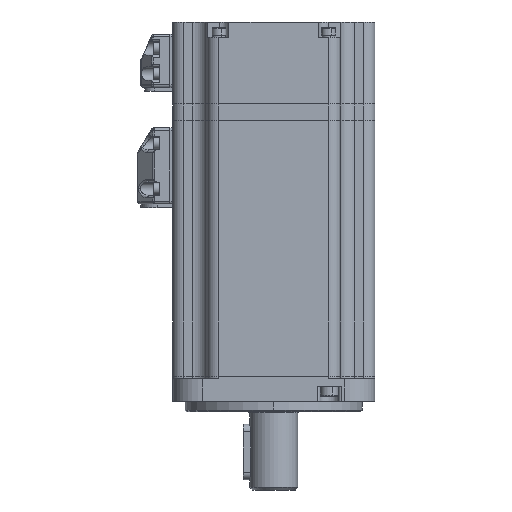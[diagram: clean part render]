
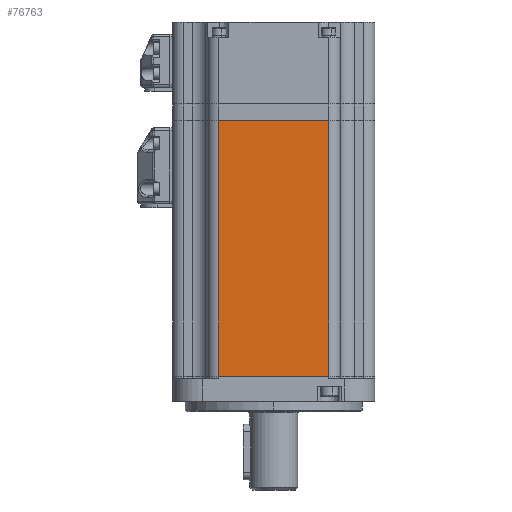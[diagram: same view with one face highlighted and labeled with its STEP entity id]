
A CAD part, left-side view. The second image highlights one B-rep face of the part: STEP entity #76763.
In plain terms, the highlighted planar face has unit normal (-1, 0, 0).
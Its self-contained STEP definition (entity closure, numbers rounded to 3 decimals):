
#2006 = EDGE_CURVE ( 'NONE', #24430, #85108, #10736, .T. ) ;
#3305 = PLANE ( 'NONE',  #10635 ) ;
#4658 = DIRECTION ( 'NONE',  ( 0., 0., -1. ) ) ;
#5469 = DIRECTION ( 'NONE',  ( 0., -1., 0. ) ) ;
#6698 = VECTOR ( 'NONE', #24033, 1000. ) ;
#8205 = EDGE_CURVE ( 'NONE', #14946, #36705, #84115, .T. ) ;
#8528 = LINE ( 'NONE', #67002, #14986 ) ;
#10410 = ORIENTED_EDGE ( 'NONE', *, *, #2006, .T. ) ;
#10635 = AXIS2_PLACEMENT_3D ( 'NONE', #72043, #58558, #86161 ) ;
#10736 = LINE ( 'NONE', #74001, #12893 ) ;
#12893 = VECTOR ( 'NONE', #4658, 1000. ) ;
#14946 = VERTEX_POINT ( 'NONE', #57101 ) ;
#14986 = VECTOR ( 'NONE', #5469, 1000. ) ;
#18120 = EDGE_LOOP ( 'NONE', ( #64216, #10410, #65440, #78825 ) ) ;
#21447 = EDGE_CURVE ( 'NONE', #24430, #36705, #40649, .T. ) ;
#24033 = DIRECTION ( 'NONE',  ( 0., 0., 1. ) ) ;
#24430 = VERTEX_POINT ( 'NONE', #61357 ) ;
#26450 = CARTESIAN_POINT ( 'NONE',  ( -40., -21.75, 101.1 ) ) ;
#36385 = FACE_OUTER_BOUND ( 'NONE', #18120, .T. ) ;
#36705 = VERTEX_POINT ( 'NONE', #26450 ) ;
#40649 = LINE ( 'NONE', #82243, #63239 ) ;
#55409 = CARTESIAN_POINT ( 'NONE',  ( -40., 21.75, 0. ) ) ;
#57101 = CARTESIAN_POINT ( 'NONE',  ( -40., -21.75, 0. ) ) ;
#58558 = DIRECTION ( 'NONE',  ( 1., 0., 0. ) ) ;
#61357 = CARTESIAN_POINT ( 'NONE',  ( -40., 21.75, 101.1 ) ) ;
#61766 = DIRECTION ( 'NONE',  ( 0., -1., 0. ) ) ;
#63239 = VECTOR ( 'NONE', #61766, 1000. ) ;
#64216 = ORIENTED_EDGE ( 'NONE', *, *, #21447, .F. ) ;
#65440 = ORIENTED_EDGE ( 'NONE', *, *, #87135, .T. ) ;
#67002 = CARTESIAN_POINT ( 'NONE',  ( -40., 26.25, 0. ) ) ;
#72043 = CARTESIAN_POINT ( 'NONE',  ( -40., 26.25, 101.1 ) ) ;
#74001 = CARTESIAN_POINT ( 'NONE',  ( -40., 21.75, 101.1 ) ) ;
#76763 = ADVANCED_FACE ( 'NONE', ( #36385 ), #3305, .F. ) ;
#78825 = ORIENTED_EDGE ( 'NONE', *, *, #8205, .T. ) ;
#79041 = CARTESIAN_POINT ( 'NONE',  ( -40., -21.75, 101.1 ) ) ;
#82243 = CARTESIAN_POINT ( 'NONE',  ( -40., 26.25, 101.1 ) ) ;
#84115 = LINE ( 'NONE', #79041, #6698 ) ;
#85108 = VERTEX_POINT ( 'NONE', #55409 ) ;
#86161 = DIRECTION ( 'NONE',  ( 0., 1., 0. ) ) ;
#87135 = EDGE_CURVE ( 'NONE', #85108, #14946, #8528, .T. ) ;
